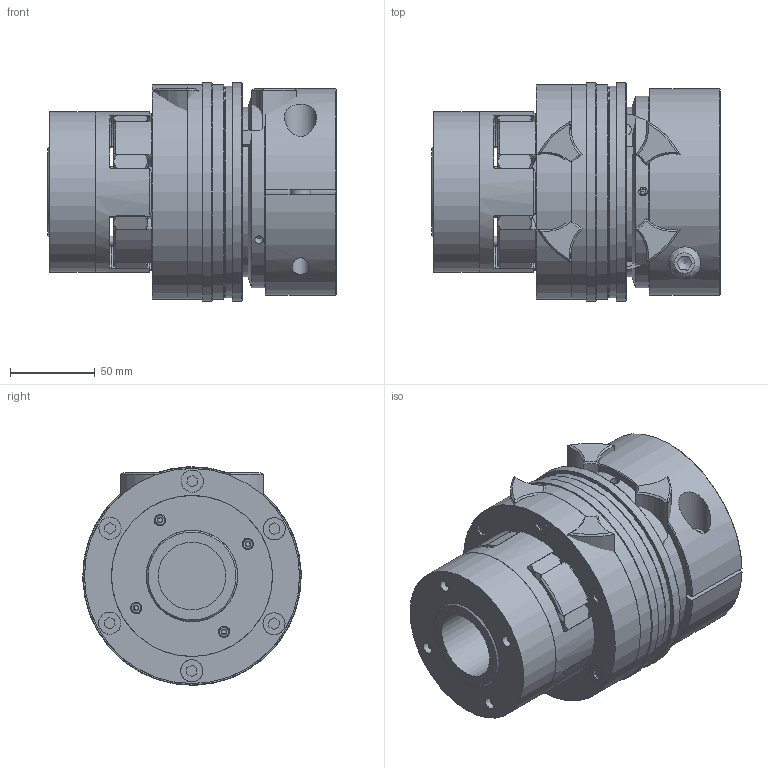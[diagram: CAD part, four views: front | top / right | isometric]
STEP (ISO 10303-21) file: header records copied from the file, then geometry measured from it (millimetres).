
FILE_DESCRIPTION( ( 'Unknown' ), '1' );
FILE_NAME( 'C:/Dokumente und Einstellungen/Sven/Desktop/hp kbk/E-AK/KBK EAK-42-183.stp', 'Unknown', ( 'Unknown' ), ( 'Unknown' ), 'XStep 1.0', 'Unknown', ' ' );
FILE_SCHEMA( ( 'automotive_design' ) );
Length unit declared in the file: millimetre
Products named in the file (20): Assem1; Assem2; Assem3; Assem4; Zylinderschraube DIN 912; ball_bearing_-_6013_0_01; ball_bearing_-_6013_0_02; ball_bearing_-_6013_0_03; Zylinderschraube DIN 912_8; Stellring 500; Druckring 500; Flansch 500; a_65; Elastormerflansch 42; Zahnkranz 42; KBE 3 - 42_Druckring; KBK L-K-500 Grundkörper; Klemmnabe 500; schraube_iso_7380-m12x40-12_9; KBE 3 C- 42_Nabe
Bounding box: 170.2 x 129 x 129 mm (x, y, z)
Volume: 2845892.5 mm3; surface area: 689019 mm2
Topology: 45 solids, 45 shells, 955 faces, 2162 edges, 1409 vertices
Faces by surface type: cylinder 356, plane 328, cone 218, torus 51, bspline 2
Full cylindrical faces by diameter (mm): 3 x10, 3.242 x6, 5.1 x6, 5.2 x6, 5.5 x6, 6 x16, 6.647 x12, 6.8 x16, 8 x8, 8.2 x12, 8.8 x8, 10.106 x2, 12 x2, 12.5 x2, 13 x8, 13.1 x12, 15 x8, 19 x2, 35 x2, 40 x4, 46 x4, 58 x2, 62 x2, 65 x7, 70 x2, 76.3 x6, 86 x4, 89.1 x6, 91 x2, 95 x4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
Entity records: 11820 total; most frequent: CARTESIAN_POINT 2772, DIRECTION 1920, ORIENTED_EDGE 1478, AXIS2_PLACEMENT_3D 888, EDGE_CURVE 739, EDGE_LOOP 660, VERTEX_POINT 556, FACE_OUTER_BOUND 508
